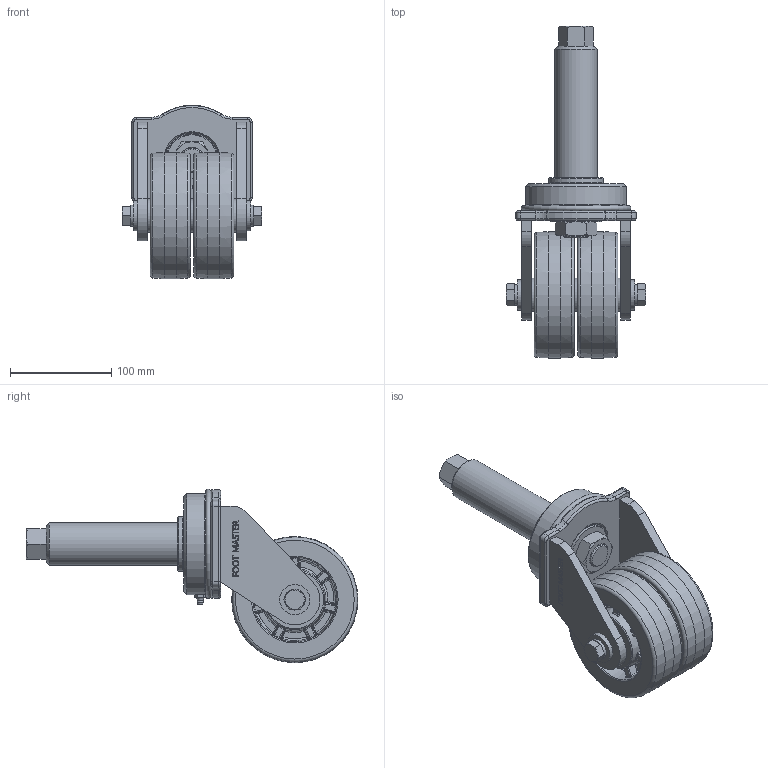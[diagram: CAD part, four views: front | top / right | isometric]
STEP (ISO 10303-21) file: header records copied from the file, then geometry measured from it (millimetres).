
FILE_DESCRIPTION(/* description */ (''),/* implementation_level */ '2;1');
FILE_NAME(/* name */ 'C:\Users\admin\Desktop\업무폴더\일자별 업무\2024\03월\03.08\홈페이지용 3D\3D\GXTT-125-ASS-HUD-PM42x130L_2.stp',/* time_stamp */ '2024-03-13T08:29:03+09:00',/* author */ ('admin'),/* organization */ (''),/* preprocessor_version */ 'ST-DEVELOPER v18.1',/* originating_system */ 'Autodesk Inventor 2021',/* authorisation */ '');
FILE_SCHEMA (('CONFIG_CONTROL_DESIGN'));
Length unit declared in the file: millimetre
Products named in the file (1): GXTT-125-ASS-HUD-PM42x130L
Bounding box: 138 x 328.5 x 171.75 mm (x, y, z)
Volume: 1507886 mm3; surface area: 207122 mm2
Topology: 1 solids, 1 shells, 1191 faces, 2849 edges, 1717 vertices
Faces by surface type: bspline 425, plane 402, cylinder 159, torus 149, cone 56
Full cylindrical faces by diameter (mm): 1 x1, 20.6 x2, 24 x1, 30 x2, 33 x3, 36 x1, 42 x1, 50 x1, 54 x2, 60 x1, 85 x1, 100 x1, 125 x2
Entity records: 46152 total; most frequent: CARTESIAN_POINT 20316, ORIENTED_EDGE 5726, DIRECTION 4874, EDGE_CURVE 2863, AXIS2_PLACEMENT_3D 1942, VERTEX_POINT 1724, EDGE_LOOP 1254, FACE_OUTER_BOUND 1191
